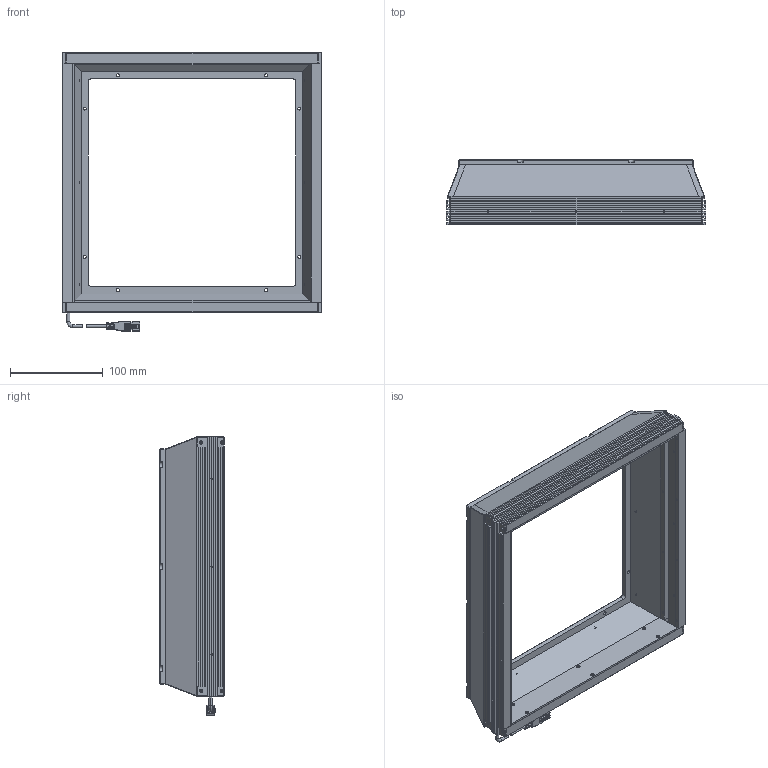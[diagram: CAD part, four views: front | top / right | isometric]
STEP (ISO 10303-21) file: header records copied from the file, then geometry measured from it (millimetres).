
FILE_DESCRIPTION (( 'STEP AP203' ), '1' );
FILE_NAME ('SPQ-280-280-X-¼òÒ×3DÍ¼.STEP', '2022-09-02T10:48:46', ( '' ), ( '' ), 'SwSTEP 2.0', 'SolidWorks 2018', '' );
FILE_SCHEMA (( 'CONFIG_CONTROL_DESIGN' ));
Length unit declared in the file: millimetre
Products named in the file (1): SPQ-280-280-X-潠眢3D芞
Bounding box: 280 x 70 x 300.25 mm (x, y, z)
Surface area: 312886.6 mm2 (no closed solid volume)
Topology: 0 solids, 10 shells, 945 faces, 2573 edges, 1580 vertices
Faces by surface type: plane 475, cylinder 295, cone 141, bspline 28, torus 6
Entity records: 29687 total; most frequent: CARTESIAN_POINT 5886, DIRECTION 4934, ORIENTED_EDGE 4879, EDGE_CURVE 2465, LINE 1710, VECTOR 1710, AXIS2_PLACEMENT_3D 1612, VERTEX_POINT 1580
